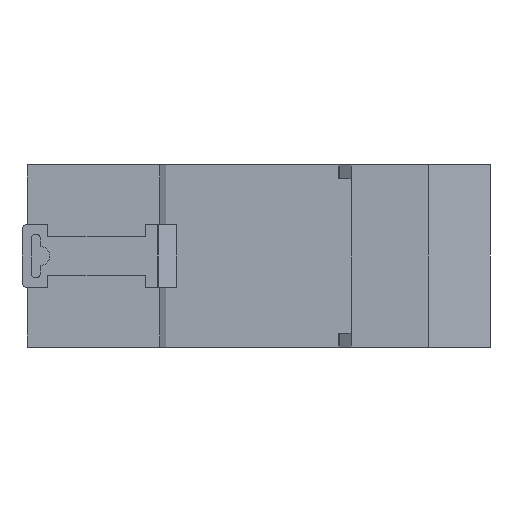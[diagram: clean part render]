
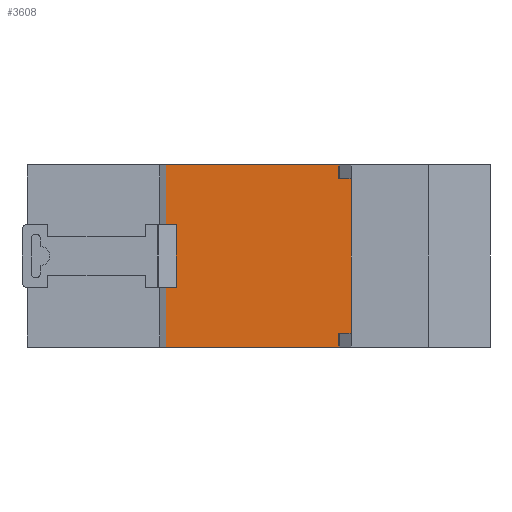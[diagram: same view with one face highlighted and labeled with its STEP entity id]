
A CAD part, left-side view. The second image highlights one B-rep face of the part: STEP entity #3608.
In plain terms, the highlighted planar face has unit normal (-1, 0, 0).
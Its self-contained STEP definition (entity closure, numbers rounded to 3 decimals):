
#185 = ORIENTED_EDGE ( 'NONE', *, *, #9001, .T. ) ;
#188 = EDGE_CURVE ( 'NONE', #12493, #2015, #13114, .T. ) ;
#322 = VECTOR ( 'NONE', #2936, 1000. ) ;
#1081 = ORIENTED_EDGE ( 'NONE', *, *, #1954, .F. ) ;
#1258 = CARTESIAN_POINT ( 'NONE',  ( -60., -4.25, 35.4 ) ) ;
#1523 = EDGE_CURVE ( 'NONE', #12210, #1658, #4369, .T. ) ;
#1658 = VERTEX_POINT ( 'NONE', #4472 ) ;
#1675 = DIRECTION ( 'NONE',  ( 0., -1., 0. ) ) ;
#1781 = CARTESIAN_POINT ( 'NONE',  ( -60., -40.25, 35.4 ) ) ;
#1954 = EDGE_CURVE ( 'NONE', #12493, #12210, #1985, .T. ) ;
#1985 = LINE ( 'NONE', #8765, #7815 ) ;
#2015 = VERTEX_POINT ( 'NONE', #2048 ) ;
#2021 = CARTESIAN_POINT ( 'NONE',  ( -60., -4.25, 0. ) ) ;
#2048 = CARTESIAN_POINT ( 'NONE',  ( -60., -4.25, 0. ) ) ;
#2867 = FACE_OUTER_BOUND ( 'NONE', #3482, .T. ) ;
#2936 = DIRECTION ( 'NONE',  ( 0., 0., -1. ) ) ;
#3395 = PLANE ( 'NONE',  #11727 ) ;
#3482 = EDGE_LOOP ( 'NONE', ( #185, #6699, #1081, #10904 ) ) ;
#3516 = VECTOR ( 'NONE', #11057, 1000. ) ;
#3608 = ADVANCED_FACE ( 'NONE', ( #2867 ), #3395, .F. ) ;
#3825 = CARTESIAN_POINT ( 'NONE',  ( -60., -40.25, 35.4 ) ) ;
#4178 = LINE ( 'NONE', #2021, #3516 ) ;
#4369 = LINE ( 'NONE', #1781, #9866 ) ;
#4472 = CARTESIAN_POINT ( 'NONE',  ( -60., -40.25, 0. ) ) ;
#6379 = DIRECTION ( 'NONE',  ( 0., 1., 0. ) ) ;
#6699 = ORIENTED_EDGE ( 'NONE', *, *, #1523, .F. ) ;
#7815 = VECTOR ( 'NONE', #1675, 1000. ) ;
#8765 = CARTESIAN_POINT ( 'NONE',  ( -60., -4.25, 35.4 ) ) ;
#9001 = EDGE_CURVE ( 'NONE', #2015, #1658, #4178, .T. ) ;
#9287 = CARTESIAN_POINT ( 'NONE',  ( -60., -4.25, 35.4 ) ) ;
#9866 = VECTOR ( 'NONE', #11931, 1000. ) ;
#10904 = ORIENTED_EDGE ( 'NONE', *, *, #188, .T. ) ;
#10975 = CARTESIAN_POINT ( 'NONE',  ( -60., -4.25, 35.4 ) ) ;
#11057 = DIRECTION ( 'NONE',  ( 0., -1., 0. ) ) ;
#11727 = AXIS2_PLACEMENT_3D ( 'NONE', #1258, #12428, #6379 ) ;
#11931 = DIRECTION ( 'NONE',  ( 0., 0., -1. ) ) ;
#12210 = VERTEX_POINT ( 'NONE', #3825 ) ;
#12428 = DIRECTION ( 'NONE',  ( 1., 0., 0. ) ) ;
#12493 = VERTEX_POINT ( 'NONE', #9287 ) ;
#13114 = LINE ( 'NONE', #10975, #322 ) ;
